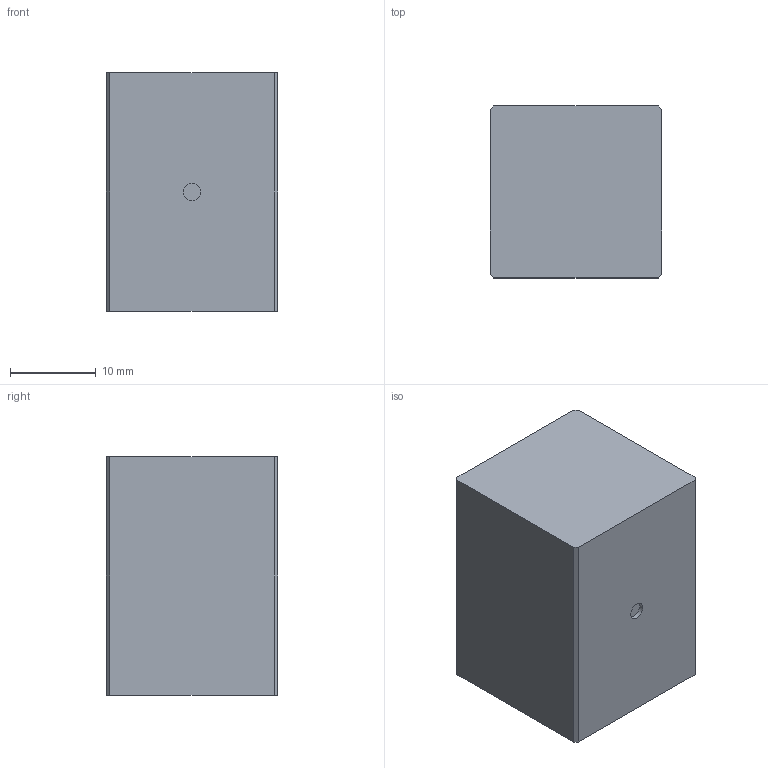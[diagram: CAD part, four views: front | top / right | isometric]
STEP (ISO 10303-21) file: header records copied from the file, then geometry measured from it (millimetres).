
FILE_DESCRIPTION(('Open CASCADE Model'),'2;1');
FILE_NAME('Open CASCADE Shape Model','2026-08-23T08:04:36',('Author'),( 'Open CASCADE'),'Open CASCADE STEP processor 7.9','Open CASCADE 7.9' ,'Unknown');
FILE_SCHEMA(('AUTOMOTIVE_DESIGN { 1 0 10303 214 1 1 1 1 }'));
Length unit declared in the file: millimetre
Products named in the file (2): =>[0:1:1:2]; COMPOUND
Assembly tree (1 placements, depth 2):
  =>[0:1:1:2]
    COMPOUND
Bounding box: 20 x 20 x 27.75 mm (x, y, z)
Volume: 11089.5 mm3; surface area: 2996.5 mm2
Topology: 1 solids, 1 shells, 12 faces, 27 edges, 18 vertices
Faces by surface type: plane 11, cylinder 1
Full cylindrical faces by diameter (mm): 2 x1
Entity records: 731 total; most frequent: CARTESIAN_POINT 119, DIRECTION 110, LINE 77, VECTOR 77, ORIENTED_EDGE 54, PCURVE 54, DEFINITIONAL_REPRESENTATION 54, EDGE_CURVE 27
